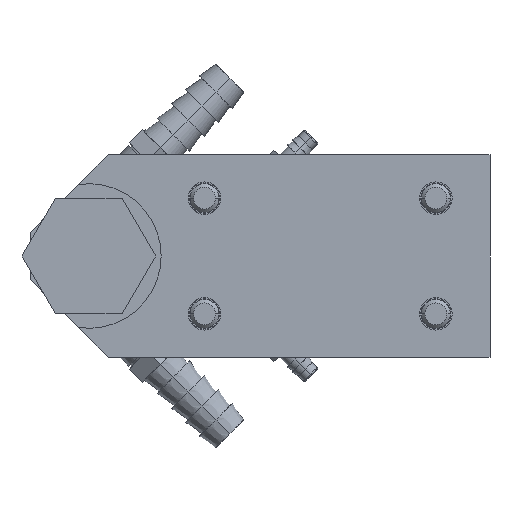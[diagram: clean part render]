
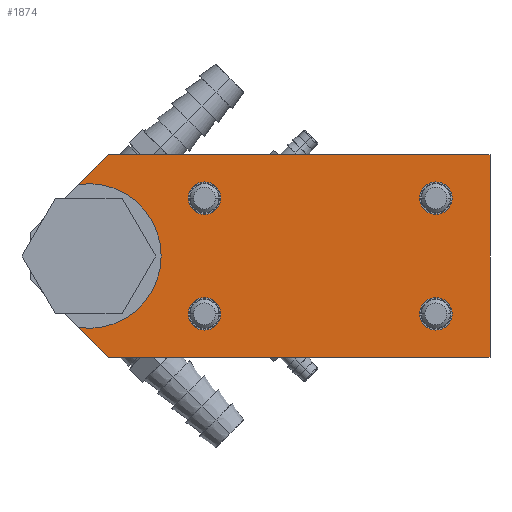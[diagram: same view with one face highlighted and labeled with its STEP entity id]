
A CAD part, left-side view. The second image highlights one B-rep face of the part: STEP entity #1874.
In plain terms, the highlighted planar face has unit normal (-1, 0, 0).
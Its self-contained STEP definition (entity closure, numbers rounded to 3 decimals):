
#1479=CARTESIAN_POINT('',(8.776,6.908,-3.5));
#1480=VERTEX_POINT('',#1479);
#1489=CARTESIAN_POINT('',(8.776,7.189,-3.5));
#1490=VERTEX_POINT('',#1489);
#1491=CARTESIAN_POINT('',(8.776,7.048,-3.5));
#1492=DIRECTION('',(1.0,0.0,0.0));
#1493=DIRECTION('',(0.0,-1.0,0.0));
#1494=AXIS2_PLACEMENT_3D('',#1491,#1492,#1493);
#1495=CIRCLE('',#1494,0.141);
#1496=EDGE_CURVE('',#1490,#1480,#1495,.T.);
#1521=CARTESIAN_POINT('',(8.776,4.908,-3.5));
#1522=VERTEX_POINT('',#1521);
#1531=CARTESIAN_POINT('',(8.776,5.189,-3.5));
#1532=VERTEX_POINT('',#1531);
#1533=CARTESIAN_POINT('',(8.776,5.048,-3.5));
#1534=DIRECTION('',(1.0,0.0,0.0));
#1535=DIRECTION('',(0.0,-1.0,0.0));
#1536=AXIS2_PLACEMENT_3D('',#1533,#1534,#1535);
#1537=CIRCLE('',#1536,0.141);
#1538=EDGE_CURVE('',#1532,#1522,#1537,.T.);
#1563=CARTESIAN_POINT('',(8.776,4.908,-4.5));
#1564=VERTEX_POINT('',#1563);
#1573=CARTESIAN_POINT('',(8.776,5.189,-4.5));
#1574=VERTEX_POINT('',#1573);
#1575=CARTESIAN_POINT('',(8.776,5.048,-4.5));
#1576=DIRECTION('',(1.0,0.0,0.0));
#1577=DIRECTION('',(0.0,-1.0,0.0));
#1578=AXIS2_PLACEMENT_3D('',#1575,#1576,#1577);
#1579=CIRCLE('',#1578,0.141);
#1580=EDGE_CURVE('',#1574,#1564,#1579,.T.);
#1605=CARTESIAN_POINT('',(8.776,6.908,-4.5));
#1606=VERTEX_POINT('',#1605);
#1615=CARTESIAN_POINT('',(8.776,7.189,-4.5));
#1616=VERTEX_POINT('',#1615);
#1617=CARTESIAN_POINT('',(8.776,7.048,-4.5));
#1618=DIRECTION('',(1.0,0.0,0.0));
#1619=DIRECTION('',(0.0,-1.0,0.0));
#1620=AXIS2_PLACEMENT_3D('',#1617,#1618,#1619);
#1621=CIRCLE('',#1620,0.141);
#1622=EDGE_CURVE('',#1616,#1606,#1621,.T.);
#1647=CARTESIAN_POINT('',(8.776,8.137,-4.619));
#1648=VERTEX_POINT('',#1647);
#1665=CARTESIAN_POINT('',(8.776,7.881,-4.875));
#1666=VERTEX_POINT('',#1665);
#1673=CARTESIAN_POINT('',(8.776,7.881,-4.875));
#1674=DIRECTION('',(0.0,0.707,0.707));
#1675=VECTOR('',#1674,0.362);
#1676=LINE('',#1673,#1675);
#1677=EDGE_CURVE('',#1666,#1648,#1676,.T.);
#1776=CARTESIAN_POINT('',(8.776,8.137,-3.381));
#1777=VERTEX_POINT('',#1776);
#1778=CARTESIAN_POINT('',(8.776,8.048,-4.));
#1779=DIRECTION('',(1.0,0.0,0.0));
#1780=DIRECTION('',(0.0,-1.0,0.0));
#1781=AXIS2_PLACEMENT_3D('',#1778,#1779,#1780);
#1782=CIRCLE('',#1781,0.625);
#1783=EDGE_CURVE('',#1777,#1648,#1782,.T.);
#1795=CARTESIAN_POINT('',(8.776,6.452,-4.));
#1796=DIRECTION('',(1.0,0.0,0.0));
#1797=DIRECTION('',(0.0,-1.0,0.0));
#1798=AXIS2_PLACEMENT_3D('',#1795,#1796,#1797);
#1799=PLANE('',#1798);
#1800=ORIENTED_EDGE('',*,*,#1677,.F.);
#1801=CARTESIAN_POINT('',(8.776,4.581,-4.875));
#1802=VERTEX_POINT('',#1801);
#1803=CARTESIAN_POINT('',(8.776,4.581,-4.875));
#1804=DIRECTION('',(0.0,1.0,0.0));
#1805=VECTOR('',#1804,3.3);
#1806=LINE('',#1803,#1805);
#1807=EDGE_CURVE('',#1802,#1666,#1806,.T.);
#1808=ORIENTED_EDGE('',*,*,#1807,.F.);
#1809=CARTESIAN_POINT('',(8.776,4.581,-3.125));
#1810=VERTEX_POINT('',#1809);
#1811=CARTESIAN_POINT('',(8.776,4.581,-3.125));
#1812=DIRECTION('',(0.0,0.0,-1.0));
#1813=VECTOR('',#1812,1.75);
#1814=LINE('',#1811,#1813);
#1815=EDGE_CURVE('',#1810,#1802,#1814,.T.);
#1816=ORIENTED_EDGE('',*,*,#1815,.F.);
#1817=CARTESIAN_POINT('',(8.776,7.881,-3.125));
#1818=VERTEX_POINT('',#1817);
#1819=CARTESIAN_POINT('',(8.776,7.881,-3.125));
#1820=DIRECTION('',(0.0,-1.0,0.0));
#1821=VECTOR('',#1820,3.3);
#1822=LINE('',#1819,#1821);
#1823=EDGE_CURVE('',#1818,#1810,#1822,.T.);
#1824=ORIENTED_EDGE('',*,*,#1823,.F.);
#1825=CARTESIAN_POINT('',(8.776,8.137,-3.381));
#1826=DIRECTION('',(0.0,-0.707,0.707));
#1827=VECTOR('',#1826,0.362);
#1828=LINE('',#1825,#1827);
#1829=EDGE_CURVE('',#1777,#1818,#1828,.T.);
#1830=ORIENTED_EDGE('',*,*,#1829,.F.);
#1831=ORIENTED_EDGE('',*,*,#1783,.T.);
#1832=EDGE_LOOP('',(#1800,#1808,#1816,#1824,#1830,#1831));
#1833=FACE_OUTER_BOUND('',#1832,.T.);
#1834=ORIENTED_EDGE('',*,*,#1622,.T.);
#1835=CARTESIAN_POINT('',(8.776,7.048,-4.5));
#1836=DIRECTION('',(1.0,0.0,0.0));
#1837=DIRECTION('',(0.0,-1.0,0.0));
#1838=AXIS2_PLACEMENT_3D('',#1835,#1836,#1837);
#1839=CIRCLE('',#1838,0.141);
#1840=EDGE_CURVE('',#1606,#1616,#1839,.T.);
#1841=ORIENTED_EDGE('',*,*,#1840,.T.);
#1842=EDGE_LOOP('',(#1834,#1841));
#1843=FACE_BOUND('',#1842,.T.);
#1844=ORIENTED_EDGE('',*,*,#1580,.T.);
#1845=CARTESIAN_POINT('',(8.776,5.048,-4.5));
#1846=DIRECTION('',(1.0,0.0,0.0));
#1847=DIRECTION('',(0.0,-1.0,0.0));
#1848=AXIS2_PLACEMENT_3D('',#1845,#1846,#1847);
#1849=CIRCLE('',#1848,0.141);
#1850=EDGE_CURVE('',#1564,#1574,#1849,.T.);
#1851=ORIENTED_EDGE('',*,*,#1850,.T.);
#1852=EDGE_LOOP('',(#1844,#1851));
#1853=FACE_BOUND('',#1852,.T.);
#1854=ORIENTED_EDGE('',*,*,#1538,.T.);
#1855=CARTESIAN_POINT('',(8.776,5.048,-3.5));
#1856=DIRECTION('',(1.0,0.0,0.0));
#1857=DIRECTION('',(0.0,-1.0,0.0));
#1858=AXIS2_PLACEMENT_3D('',#1855,#1856,#1857);
#1859=CIRCLE('',#1858,0.141);
#1860=EDGE_CURVE('',#1522,#1532,#1859,.T.);
#1861=ORIENTED_EDGE('',*,*,#1860,.T.);
#1862=EDGE_LOOP('',(#1854,#1861));
#1863=FACE_BOUND('',#1862,.T.);
#1864=ORIENTED_EDGE('',*,*,#1496,.T.);
#1865=CARTESIAN_POINT('',(8.776,7.048,-3.5));
#1866=DIRECTION('',(1.0,0.0,0.0));
#1867=DIRECTION('',(0.0,-1.0,0.0));
#1868=AXIS2_PLACEMENT_3D('',#1865,#1866,#1867);
#1869=CIRCLE('',#1868,0.141);
#1870=EDGE_CURVE('',#1480,#1490,#1869,.T.);
#1871=ORIENTED_EDGE('',*,*,#1870,.T.);
#1872=EDGE_LOOP('',(#1864,#1871));
#1873=FACE_BOUND('',#1872,.T.);
#1874=ADVANCED_FACE('',(#1833,#1843,#1853,#1863,#1873),#1799,.F.);
